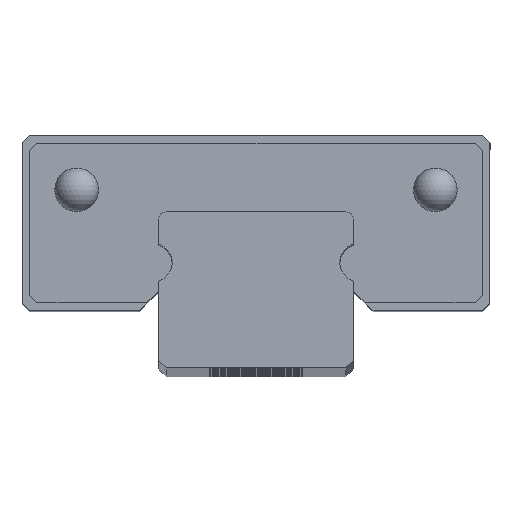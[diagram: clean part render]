
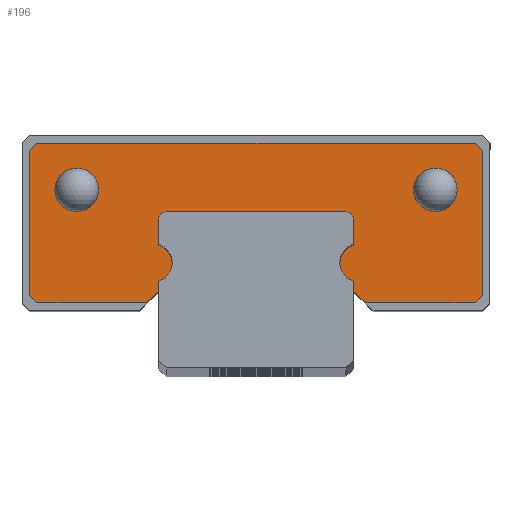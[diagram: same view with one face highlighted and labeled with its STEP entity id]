
A CAD part, top view. The second image highlights one B-rep face of the part: STEP entity #196.
In plain terms, the highlighted planar face has unit normal (0, 0, 1).
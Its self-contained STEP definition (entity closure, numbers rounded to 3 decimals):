
#196=ADVANCED_FACE('',(#414,#415,#416),#417,.T.);
#414=FACE_BOUND('',#657,.T.);
#415=FACE_BOUND('',#658,.T.);
#416=FACE_OUTER_BOUND('',#659,.T.);
#417=PLANE('',#660);
#657=EDGE_LOOP('',(#1247));
#658=EDGE_LOOP('',(#1248));
#659=EDGE_LOOP('',(#1249,#1250,#1251,#1252,#1253,#1254,#1255,#1256,#1257,#1258,#1259,#1260,#1261,#1262,#1263,#1264,#1265,#1266,#1267,#1268));
#660=AXIS2_PLACEMENT_3D('',#1269,#1270,#1271);
#1247=ORIENTED_EDGE('',*,*,#1577,.F.);
#1248=ORIENTED_EDGE('',*,*,#1462,.F.);
#1249=ORIENTED_EDGE('',*,*,#1574,.T.);
#1250=ORIENTED_EDGE('',*,*,#1549,.T.);
#1251=ORIENTED_EDGE('',*,*,#1578,.T.);
#1252=ORIENTED_EDGE('',*,*,#1579,.T.);
#1253=ORIENTED_EDGE('',*,*,#1580,.T.);
#1254=ORIENTED_EDGE('',*,*,#1541,.T.);
#1255=ORIENTED_EDGE('',*,*,#1581,.T.);
#1256=ORIENTED_EDGE('',*,*,#1537,.T.);
#1257=ORIENTED_EDGE('',*,*,#1582,.T.);
#1258=ORIENTED_EDGE('',*,*,#1583,.T.);
#1259=ORIENTED_EDGE('',*,*,#1584,.T.);
#1260=ORIENTED_EDGE('',*,*,#1551,.T.);
#1261=ORIENTED_EDGE('',*,*,#1573,.T.);
#1262=ORIENTED_EDGE('',*,*,#1522,.T.);
#1263=ORIENTED_EDGE('',*,*,#1575,.T.);
#1264=ORIENTED_EDGE('',*,*,#1519,.T.);
#1265=ORIENTED_EDGE('',*,*,#1576,.T.);
#1266=ORIENTED_EDGE('',*,*,#1516,.T.);
#1267=ORIENTED_EDGE('',*,*,#1572,.T.);
#1268=ORIENTED_EDGE('',*,*,#1513,.T.);
#1269=CARTESIAN_POINT('',(-5.8,-0.3,45.));
#1270=DIRECTION('',(0.,0.,1.0));
#1271=DIRECTION('',(0.,-1.0,0.));
#1462=EDGE_CURVE('',#1726,#1726,#1727,.T.);
#1513=EDGE_CURVE('',#1820,#1821,#1822,.F.);
#1516=EDGE_CURVE('',#1825,#1826,#1827,.F.);
#1519=EDGE_CURVE('',#1830,#1831,#1832,.F.);
#1522=EDGE_CURVE('',#1835,#1836,#1837,.F.);
#1537=EDGE_CURVE('',#1860,#1861,#1862,.F.);
#1541=EDGE_CURVE('',#1868,#1869,#1870,.F.);
#1549=EDGE_CURVE('',#1883,#1881,#1884,.T.);
#1551=EDGE_CURVE('',#1886,#1887,#1888,.T.);
#1572=EDGE_CURVE('',#1826,#1820,#1918,.T.);
#1573=EDGE_CURVE('',#1887,#1835,#1919,.T.);
#1574=EDGE_CURVE('',#1821,#1883,#1920,.T.);
#1575=EDGE_CURVE('',#1836,#1830,#1921,.T.);
#1576=EDGE_CURVE('',#1831,#1825,#1922,.T.);
#1577=EDGE_CURVE('',#1923,#1923,#1924,.T.);
#1578=EDGE_CURVE('',#1881,#1925,#1926,.T.);
#1579=EDGE_CURVE('',#1925,#1927,#1928,.T.);
#1580=EDGE_CURVE('',#1927,#1868,#1929,.T.);
#1581=EDGE_CURVE('',#1869,#1860,#1930,.T.);
#1582=EDGE_CURVE('',#1861,#1931,#1932,.T.);
#1583=EDGE_CURVE('',#1931,#1933,#1934,.T.);
#1584=EDGE_CURVE('',#1933,#1886,#1935,.T.);
#1726=VERTEX_POINT('',#2106);
#1727=CIRCLE('',#2107,0.559);
#1820=VERTEX_POINT('',#2248);
#1821=VERTEX_POINT('',#2249);
#1822=LINE('',#2250,#2251);
#1825=VERTEX_POINT('',#2256);
#1826=VERTEX_POINT('',#2257);
#1827=LINE('',#2258,#2259);
#1830=VERTEX_POINT('',#2264);
#1831=VERTEX_POINT('',#2265);
#1832=LINE('',#2266,#2267);
#1835=VERTEX_POINT('',#2272);
#1836=VERTEX_POINT('',#2273);
#1837=LINE('',#2274,#2275);
#1860=VERTEX_POINT('',#2312);
#1861=VERTEX_POINT('',#2313);
#1862=CIRCLE('',#2314,0.2);
#1868=VERTEX_POINT('',#2322);
#1869=VERTEX_POINT('',#2323);
#1870=CIRCLE('',#2324,0.2);
#1881=VERTEX_POINT('',#2340);
#1883=VERTEX_POINT('',#2343);
#1884=LINE('',#2344,#2345);
#1886=VERTEX_POINT('',#2348);
#1887=VERTEX_POINT('',#2349);
#1888=LINE('',#2350,#2351);
#1918=LINE('',#2396,#2397);
#1919=LINE('',#2398,#2399);
#1920=LINE('',#2400,#2401);
#1921=LINE('',#2402,#2403);
#1922=LINE('',#2404,#2405);
#1923=VERTEX_POINT('',#2406);
#1924=CIRCLE('',#2407,0.559);
#1925=VERTEX_POINT('',#2408);
#1926=LINE('',#2409,#2410);
#1927=VERTEX_POINT('',#2411);
#1928=CIRCLE('',#2412,0.5);
#1929=LINE('',#2413,#2414);
#1930=LINE('',#2415,#2416);
#1931=VERTEX_POINT('',#2417);
#1932=LINE('',#2418,#2419);
#1933=VERTEX_POINT('',#2420);
#1934=CIRCLE('',#2421,0.5);
#1935=LINE('',#2422,#2423);
#2106=CARTESIAN_POINT('',(4.6,3.159,45.));
#2107=AXIS2_PLACEMENT_3D('',#2599,#2600,#2601);
#2248=CARTESIAN_POINT('',(-5.8,-0.12,45.));
#2249=CARTESIAN_POINT('',(-5.62,-0.3,45.));
#2250=CARTESIAN_POINT('',(-5.71,-0.21,45.));
#2251=VECTOR('',#2656,1.0);
#2256=CARTESIAN_POINT('',(-5.62,3.8,45.));
#2257=CARTESIAN_POINT('',(-5.8,3.62,45.));
#2258=CARTESIAN_POINT('',(-7.76,1.66,45.));
#2259=VECTOR('',#2659,1.0);
#2264=CARTESIAN_POINT('',(5.8,3.62,45.));
#2265=CARTESIAN_POINT('',(5.62,3.8,45.));
#2266=CARTESIAN_POINT('',(1.96,7.46,45.));
#2267=VECTOR('',#2662,1.0);
#2272=CARTESIAN_POINT('',(5.62,-0.3,45.));
#2273=CARTESIAN_POINT('',(5.8,-0.12,45.));
#2274=CARTESIAN_POINT('',(-0.09,-6.01,45.0));
#2275=VECTOR('',#2665,1.0);
#2312=CARTESIAN_POINT('',(2.3,2.,45.));
#2313=CARTESIAN_POINT('',(2.5,1.8,45.));
#2314=AXIS2_PLACEMENT_3D('',#2680,#2681,#2682);
#2322=CARTESIAN_POINT('',(-2.5,1.8,45.));
#2323=CARTESIAN_POINT('',(-2.3,2.0,45.));
#2324=AXIS2_PLACEMENT_3D('',#2688,#2689,#2690);
#2340=CARTESIAN_POINT('',(-2.5,0.,45.));
#2343=CARTESIAN_POINT('',(-2.8,-0.3,45.));
#2344=CARTESIAN_POINT('',(-4.3,-1.8,45.));
#2345=VECTOR('',#2700,1.0);
#2348=CARTESIAN_POINT('',(2.5,0.,45.));
#2349=CARTESIAN_POINT('',(2.8,-0.3,45.));
#2350=CARTESIAN_POINT('',(-1.5,4.0,45.));
#2351=VECTOR('',#2702,1.0);
#2396=CARTESIAN_POINT('',(-5.8,3.8,45.));
#2397=VECTOR('',#2733,1.0);
#2398=CARTESIAN_POINT('',(-5.8,-0.3,45.));
#2399=VECTOR('',#2734,1.0);
#2400=CARTESIAN_POINT('',(-5.8,-0.3,45.));
#2401=VECTOR('',#2735,1.0);
#2402=CARTESIAN_POINT('',(5.8,-0.3,45.));
#2403=VECTOR('',#2736,1.0);
#2404=CARTESIAN_POINT('',(5.8,3.8,45.));
#2405=VECTOR('',#2737,1.0);
#2406=CARTESIAN_POINT('',(-4.6,3.159,45.));
#2407=AXIS2_PLACEMENT_3D('',#2738,#2739,#2740);
#2408=CARTESIAN_POINT('',(-2.5,0.223,45.));
#2409=CARTESIAN_POINT('',(-2.5,-0.3,45.));
#2410=VECTOR('',#2741,1.0);
#2411=CARTESIAN_POINT('',(-2.5,1.177,45.));
#2412=AXIS2_PLACEMENT_3D('',#2742,#2743,#2744);
#2413=CARTESIAN_POINT('',(-2.5,-0.3,45.));
#2414=VECTOR('',#2745,1.0);
#2415=CARTESIAN_POINT('',(-5.8,2.0,45.));
#2416=VECTOR('',#2746,1.0);
#2417=CARTESIAN_POINT('',(2.5,1.177,45.));
#2418=CARTESIAN_POINT('',(2.5,-0.3,45.));
#2419=VECTOR('',#2747,1.0);
#2420=CARTESIAN_POINT('',(2.5,0.223,45.));
#2421=AXIS2_PLACEMENT_3D('',#2748,#2749,#2750);
#2422=CARTESIAN_POINT('',(2.5,-0.3,45.));
#2423=VECTOR('',#2751,1.0);
#2599=CARTESIAN_POINT('',(4.6,2.6,45.));
#2600=DIRECTION('',(0.,0.,1.0));
#2601=DIRECTION('',(0.,1.0,0.));
#2656=DIRECTION('',(-0.707,0.707,0.));
#2659=DIRECTION('',(0.707,0.707,0.));
#2662=DIRECTION('',(0.707,-0.707,0.));
#2665=DIRECTION('',(-0.707,-0.707,0.));
#2680=CARTESIAN_POINT('',(2.3,1.8,45.));
#2681=DIRECTION('',(0.,0.,1.0));
#2682=DIRECTION('',(0.,1.0,0.));
#2688=CARTESIAN_POINT('',(-2.3,1.8,45.));
#2689=DIRECTION('',(0.,0.,1.0));
#2690=DIRECTION('',(0.,1.0,0.));
#2700=DIRECTION('',(0.707,0.707,0.));
#2702=DIRECTION('',(0.707,-0.707,0.));
#2733=DIRECTION('',(0.,-1.0,0.));
#2734=DIRECTION('',(1.0,0.,0.));
#2735=DIRECTION('',(1.0,0.,0.));
#2736=DIRECTION('',(0.,1.0,0.));
#2737=DIRECTION('',(-1.0,0.,0.));
#2738=CARTESIAN_POINT('',(-4.6,2.6,45.));
#2739=DIRECTION('',(0.,0.,1.0));
#2740=DIRECTION('',(0.,1.0,0.));
#2741=DIRECTION('',(0.,1.0,0.));
#2742=CARTESIAN_POINT('',(-2.65,0.7,45.));
#2743=DIRECTION('',(0.,0.,1.0));
#2744=DIRECTION('',(0.,1.0,0.));
#2745=DIRECTION('',(0.,1.0,0.));
#2746=DIRECTION('',(1.0,0.,0.));
#2747=DIRECTION('',(0.,-1.0,0.));
#2748=CARTESIAN_POINT('',(2.65,0.7,45.));
#2749=DIRECTION('',(0.,0.,1.0));
#2750=DIRECTION('',(0.,1.0,0.));
#2751=DIRECTION('',(0.,-1.0,0.));
